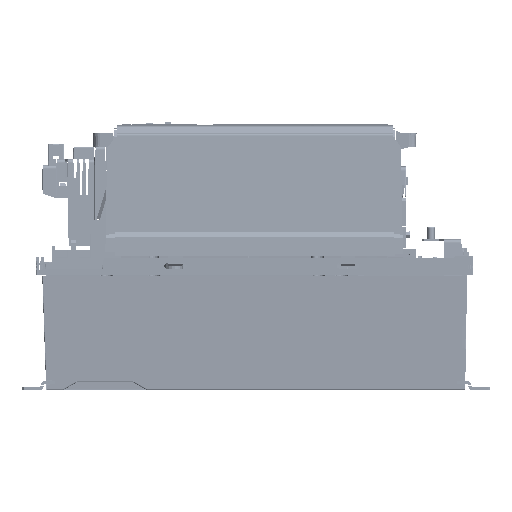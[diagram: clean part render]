
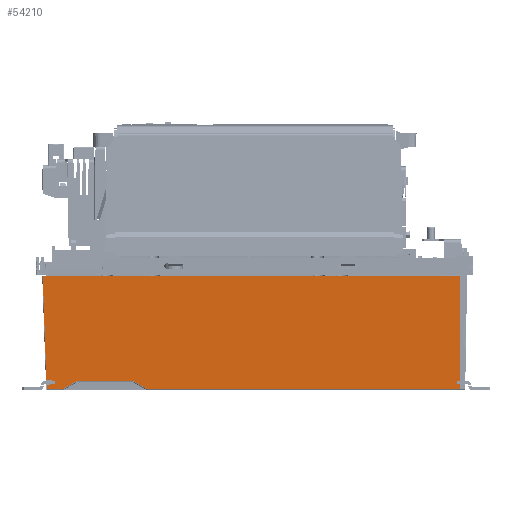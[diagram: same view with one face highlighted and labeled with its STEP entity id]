
A CAD part, left-side view. The second image highlights one B-rep face of the part: STEP entity #54210.
In plain terms, the highlighted planar face has unit normal (-1, 0, -0.026).
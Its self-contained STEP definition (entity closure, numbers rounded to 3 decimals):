
#13183=DIRECTION('',(0.,-1.,0.));
#13184=VECTOR('',#13183,348.629);
#13185=CARTESIAN_POINT('',(-165.17,176.879,
-2.787));
#13186=LINE('',#13185,#13184);
#13187=DIRECTION('',(-0.026,0.,1.));
#13188=VECTOR('',#13187,94.545);
#13189=CARTESIAN_POINT('',(-162.696,-171.75,-97.299));
#13190=LINE('',#13189,#13188);
#13191=DIRECTION('',(0.,1.,0.));
#13192=VECTOR('',#13191,261.482);
#13193=CARTESIAN_POINT('',(-162.696,-171.75,-97.299));
#13194=LINE('',#13193,#13192);
#13195=DIRECTION('',(-0.013,0.866,0.5));
#13196=VECTOR('',#13195,12.665);
#13197=CARTESIAN_POINT('',(-162.696,89.732,
-97.299));
#13198=LINE('',#13197,#13196);
#13199=CARTESIAN_POINT('',(-162.861,100.699,
-90.967));
#13200=CARTESIAN_POINT('',(-162.864,100.854,
-90.878));
#13201=CARTESIAN_POINT('',(-162.867,101.176,
-90.746));
#13202=CARTESIAN_POINT('',(-162.868,101.521,
-90.699));
#13203=CARTESIAN_POINT('',(-162.868,101.699,
-90.699));
#13205=DIRECTION('',(0.,1.,0.));
#13206=VECTOR('',#13205,46.601);
#13207=CARTESIAN_POINT('',(-162.868,101.699,
-90.699));
#13208=LINE('',#13207,#13206);
#13209=CARTESIAN_POINT('',(-162.868,148.301,
-90.699));
#13210=CARTESIAN_POINT('',(-162.868,148.479,
-90.699));
#13211=CARTESIAN_POINT('',(-162.867,148.824,
-90.746));
#13212=CARTESIAN_POINT('',(-162.864,149.146,
-90.878));
#13213=CARTESIAN_POINT('',(-162.861,149.301,
-90.967));
#13215=DIRECTION('',(0.013,0.866,-0.5));
#13216=VECTOR('',#13215,12.665);
#13217=CARTESIAN_POINT('',(-162.861,149.301,
-90.967));
#13218=LINE('',#13217,#13216);
#13219=DIRECTION('',(0.,1.,0.));
#13220=VECTOR('',#13219,13.311);
#13221=CARTESIAN_POINT('',(-162.696,160.268,
-97.299));
#13222=LINE('',#13221,#13220);
#13223=DIRECTION('',(-0.026,0.035,0.999));
#13224=VECTOR('',#13223,3.752);
#13225=CARTESIAN_POINT('',(-162.696,173.579,
-97.299));
#13226=LINE('',#13225,#13224);
#13227=DIRECTION('',(0.,-1.,0.017));
#13228=VECTOR('',#13227,3.228);
#13229=CARTESIAN_POINT('',(-162.794,173.71,
-93.551));
#13230=LINE('',#13229,#13228);
#13231=CARTESIAN_POINT('',(-162.795,170.483,
-93.494));
#13232=CARTESIAN_POINT('',(-162.795,170.44,
-93.494));
#13233=CARTESIAN_POINT('',(-162.795,170.351,
-93.487));
#13234=CARTESIAN_POINT('',(-162.796,170.207,
-93.455));
#13235=CARTESIAN_POINT('',(-162.798,170.057,
-93.396));
#13236=CARTESIAN_POINT('',(-162.8,169.903,
-93.305));
#13237=CARTESIAN_POINT('',(-162.804,169.752,
-93.17));
#13238=CARTESIAN_POINT('',(-162.808,169.617,
-92.985));
#13239=CARTESIAN_POINT('',(-162.815,169.523,
-92.752));
#13240=CARTESIAN_POINT('',(-162.819,169.5,
-92.584));
#13241=CARTESIAN_POINT('',(-162.821,169.5,-92.495));
#13243=DIRECTION('',(-0.026,0.,1.));
#13244=VECTOR('',#13243,2.018);
#13245=CARTESIAN_POINT('',(-162.821,169.5,-92.495));
#13246=LINE('',#13245,#13244);
#13247=CARTESIAN_POINT('',(-162.874,169.5,-90.477));
#13248=CARTESIAN_POINT('',(-162.875,169.5,
-90.434));
#13249=CARTESIAN_POINT('',(-162.878,169.506,
-90.344));
#13250=CARTESIAN_POINT('',(-162.881,169.535,
-90.199));
#13251=CARTESIAN_POINT('',(-162.885,169.592,
-90.047));
#13252=CARTESIAN_POINT('',(-162.89,169.683,
-89.89));
#13253=CARTESIAN_POINT('',(-162.894,169.817,
-89.736));
#13254=CARTESIAN_POINT('',(-162.897,170.001,
-89.599));
#13255=CARTESIAN_POINT('',(-162.9,170.23,
-89.504));
#13256=CARTESIAN_POINT('',(-162.9,170.395,
-89.479));
#13257=CARTESIAN_POINT('',(-162.9,170.483,
-89.477));
#13259=DIRECTION('',(0.,1.,0.017));
#13260=VECTOR('',#13259,3.372);
#13261=CARTESIAN_POINT('',(-162.9,170.483,
-89.477));
#13262=LINE('',#13261,#13260);
#13263=DIRECTION('',(-0.026,0.035,0.999));
#13264=VECTOR('',#13263,86.714);
#13265=CARTESIAN_POINT('',(-162.902,173.854,
-89.419));
#13266=LINE('',#13265,#13264);
#46069=CARTESIAN_POINT('',(-162.861,149.301,
-90.967));
#46070=CARTESIAN_POINT('',(-162.696,160.268,
-97.299));
#46071=VERTEX_POINT('',#46069);
#46072=VERTEX_POINT('',#46070);
#46073=VERTEX_POINT('',#13209);
#46078=CARTESIAN_POINT('',(-162.868,101.699,
-90.699));
#46079=VERTEX_POINT('',#46078);
#46080=VERTEX_POINT('',#13199);
#46085=CARTESIAN_POINT('',(-162.696,89.732,
-97.299));
#46086=VERTEX_POINT('',#46085);
#46091=CARTESIAN_POINT('',(-162.696,-171.75,-97.299));
#46092=VERTEX_POINT('',#46091);
#46111=CARTESIAN_POINT('',(-162.9,170.483,
-89.477));
#46112=CARTESIAN_POINT('',(-162.902,173.854,
-89.419));
#46113=VERTEX_POINT('',#46111);
#46114=VERTEX_POINT('',#46112);
#46115=VERTEX_POINT('',#13247);
#46116=CARTESIAN_POINT('',(-162.821,169.5,-92.495));
#46117=VERTEX_POINT('',#46116);
#46118=VERTEX_POINT('',#13231);
#46119=CARTESIAN_POINT('',(-162.794,173.71,
-93.551));
#46120=VERTEX_POINT('',#46119);
#46125=CARTESIAN_POINT('',(-162.696,173.579,
-97.299));
#46126=VERTEX_POINT('',#46125);
#46155=CARTESIAN_POINT('',(-165.17,-171.75,-2.787));
#46157=VERTEX_POINT('',#46155);
#46163=CARTESIAN_POINT('',(-165.17,176.879,
-2.787));
#46164=VERTEX_POINT('',#46163);
#54171=CARTESIAN_POINT('',(-162.67,-188.8,-98.273));
#54172=DIRECTION('',(-1.,0.,-0.026));
#54173=DIRECTION('',(0.,1.,0.));
#54174=AXIS2_PLACEMENT_3D('',#54171,#54172,#54173);
#54175=PLANE('',#54174);
#54177=ORIENTED_EDGE('',*,*,#54176,.T.);
#54179=ORIENTED_EDGE('',*,*,#54178,.F.);
#54181=ORIENTED_EDGE('',*,*,#54180,.T.);
#54183=ORIENTED_EDGE('',*,*,#54182,.T.);
#54185=ORIENTED_EDGE('',*,*,#54184,.T.);
#54187=ORIENTED_EDGE('',*,*,#54186,.T.);
#54189=ORIENTED_EDGE('',*,*,#54188,.T.);
#54191=ORIENTED_EDGE('',*,*,#54190,.T.);
#54193=ORIENTED_EDGE('',*,*,#54192,.T.);
#54195=ORIENTED_EDGE('',*,*,#54194,.T.);
#54197=ORIENTED_EDGE('',*,*,#54196,.T.);
#54199=ORIENTED_EDGE('',*,*,#54198,.T.);
#54201=ORIENTED_EDGE('',*,*,#54200,.T.);
#54203=ORIENTED_EDGE('',*,*,#54202,.T.);
#54205=ORIENTED_EDGE('',*,*,#54204,.T.);
#54207=ORIENTED_EDGE('',*,*,#54206,.T.);
#54208=EDGE_LOOP('',(#54177,#54179,#54181,#54183,#54185,#54187,#54189,#54191,
#54193,#54195,#54197,#54199,#54201,#54203,#54205,#54207));
#54209=FACE_OUTER_BOUND('',#54208,.F.);
#54210=ADVANCED_FACE('',(#54209),#54175,.T.);
#13204=B_SPLINE_CURVE_WITH_KNOTS('',3,(#13199,#13200,#13201,#13202,#13203),
.UNSPECIFIED.,.F.,.F.,(4,1,4),(0.,0.5,1.),.UNSPECIFIED.);
#13214=B_SPLINE_CURVE_WITH_KNOTS('',3,(#13209,#13210,#13211,#13212,#13213),
.UNSPECIFIED.,.F.,.F.,(4,1,4),(0.,0.5,1.),.UNSPECIFIED.);
#13242=B_SPLINE_CURVE_WITH_KNOTS('',3,(#13231,#13232,#13233,#13234,#13235,
#13236,#13237,#13238,#13239,#13240,#13241),.UNSPECIFIED.,.F.,.F.,(4,1,1,1,1,1,1,
1,4),(0.,0.125,0.25,0.375,0.5,0.625,0.75,0.875,1.),
.UNSPECIFIED.);
#13258=B_SPLINE_CURVE_WITH_KNOTS('',3,(#13247,#13248,#13249,#13250,#13251,
#13252,#13253,#13254,#13255,#13256,#13257),.UNSPECIFIED.,.F.,.F.,(4,1,1,1,1,1,1,
1,4),(0.,0.125,0.25,0.375,0.5,0.625,0.75,0.875,1.),
.UNSPECIFIED.);
#54176=EDGE_CURVE('',#46164,#46157,#13186,.T.);
#54178=EDGE_CURVE('',#46092,#46157,#13190,.T.);
#54180=EDGE_CURVE('',#46092,#46086,#13194,.T.);
#54182=EDGE_CURVE('',#46086,#46080,#13198,.T.);
#54184=EDGE_CURVE('',#46080,#46079,#13204,.T.);
#54186=EDGE_CURVE('',#46079,#46073,#13208,.T.);
#54188=EDGE_CURVE('',#46073,#46071,#13214,.T.);
#54190=EDGE_CURVE('',#46071,#46072,#13218,.T.);
#54192=EDGE_CURVE('',#46072,#46126,#13222,.T.);
#54194=EDGE_CURVE('',#46126,#46120,#13226,.T.);
#54196=EDGE_CURVE('',#46120,#46118,#13230,.T.);
#54198=EDGE_CURVE('',#46118,#46117,#13242,.T.);
#54200=EDGE_CURVE('',#46117,#46115,#13246,.T.);
#54202=EDGE_CURVE('',#46115,#46113,#13258,.T.);
#54204=EDGE_CURVE('',#46113,#46114,#13262,.T.);
#54206=EDGE_CURVE('',#46114,#46164,#13266,.T.);
